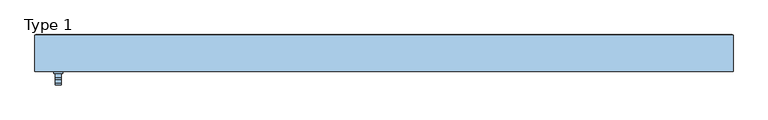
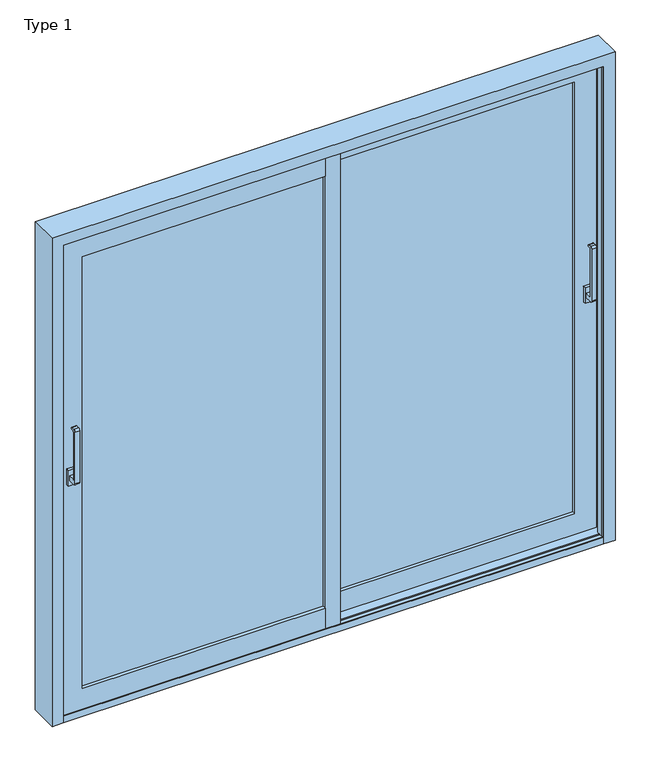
"""IFC4 building model written with IfcOpenShell, lengths in millimetres: window geometry, ETEM_E50_Double_Lift_Sliding_NI_FR : Type 1."""

from ifc_helpers import new_model, si_unit, point, frame, frame_2d, origin, place, context, project, spatial, polyline, circle_curve, trimmed, segment, composite_curve, outline, extrude, faceted_brep, source, transform, mapped, element, save


def type_1_6ca63ac7(model_context):
    return source(origin(), model_context, "Body", "SolidModel", [
        extrude(outline(composite_curve([segment(polyline([(37.4481944, 1090.0), (5.8745096, 1090.0)]), True, "CONTINUOUS"), segment(trimmed(circle_curve(frame_2d((5.8745096, 1098.4263152)), 8.4263152), [point((5.8745096, 1090.0))], [point((-2.5518056, 1098.4263152))], False, "CARTESIAN"), True, "CONTINUOUS"), segment(polyline([(-2.5518056, 1098.4263152), (-2.5518056, 1331.5736848)]), True, "CONTINUOUS"), segment(trimmed(circle_curve(frame_2d((5.8745096, 1331.5736848)), 8.4263152), [point((-2.5518056, 1331.5736848))], [point((5.8745096, 1340.0))], False, "CARTESIAN"), True, "CONTINUOUS"), segment(polyline([(5.8745096, 1340.0), (17.4481944, 1340.0)]), True, "CONTINUOUS"), segment(trimmed(circle_curve(frame_2d((17.4481944, 1335.0)), 5.0), [point((17.4481944, 1340.0))], [point((17.4481944, 1330.0))], False, "CARTESIAN"), True, "CONTINUOUS"), segment(polyline([(17.4481944, 1330.0), (10.9837283, 1330.0)]), True, "CONTINUOUS"), segment(trimmed(circle_curve(frame_2d((10.9837283, 1326.4644661)), 3.5355339), [point((10.9837283, 1330.0))], [point((7.4481944, 1326.4644661))], True, "CARTESIAN"), True, "CONTINUOUS"), segment(polyline([(7.4481944, 1326.4644661), (7.4481944, 1113.5355339)]), True, "CONTINUOUS"), segment(trimmed(circle_curve(frame_2d((10.9837283, 1113.5355339)), 3.5355339), [point((7.4481944, 1113.5355339))], [point((10.9837283, 1110.0))], True, "CARTESIAN"), True, "CONTINUOUS"), segment(polyline([(10.9837283, 1110.0), (37.4481944, 1110.0), (37.4481944, 1090.0)]), True, "CONTINUOUS")], self_intersect=False)), frame((1109.999965, 0.0, 0.0), z_axis=(1.0, 0.0, 0.0), x_axis=(0.0, 1.0, 0.0)), (0.0, 0.0, 1.0), 20.0),
        extrude(outline(polyline([(1134.999965, 37.4481944), (1104.999965, 37.4481944), (1104.999965, 50.4481944), (1134.999965, 50.4481944), (1134.999965, 37.4481944)])), frame((0.0, 0.0, 1065.0), z_axis=(0.0, 0.0, 1.0), x_axis=(1.0, 0.0, 0.0)), (0.0, 0.0, 1.0), 70.0),
        extrude(outline(composite_curve([segment(polyline([(-27.5518056, 1090.0), (-59.1254904, 1090.0)]), True, "CONTINUOUS"), segment(trimmed(circle_curve(frame_2d((-59.1254904, 1098.4263152)), 8.4263152), [point((-59.1254904, 1090.0))], [point((-67.5518056, 1098.4263152))], False, "CARTESIAN"), True, "CONTINUOUS"), segment(polyline([(-67.5518056, 1098.4263152), (-67.5518056, 1331.5736848)]), True, "CONTINUOUS"), segment(trimmed(circle_curve(frame_2d((-59.1254904, 1331.5736848)), 8.4263152), [point((-67.5518056, 1331.5736848))], [point((-59.1254904, 1340.0))], False, "CARTESIAN"), True, "CONTINUOUS"), segment(polyline([(-59.1254904, 1340.0), (-47.5518056, 1340.0)]), True, "CONTINUOUS"), segment(trimmed(circle_curve(frame_2d((-47.5518056, 1335.0)), 5.0), [point((-47.5518056, 1340.0))], [point((-47.5518056, 1330.0))], False, "CARTESIAN"), True, "CONTINUOUS"), segment(polyline([(-47.5518056, 1330.0), (-54.0162717, 1330.0)]), True, "CONTINUOUS"), segment(trimmed(circle_curve(frame_2d((-54.0162717, 1326.4644661)), 3.5355339), [point((-54.0162717, 1330.0))], [point((-57.5518056, 1326.4644661))], True, "CARTESIAN"), True, "CONTINUOUS"), segment(polyline([(-57.5518056, 1326.4644661), (-57.5518056, 1113.5355339)]), True, "CONTINUOUS"), segment(trimmed(circle_curve(frame_2d((-54.0162717, 1113.5355339)), 3.5355339), [point((-57.5518056, 1113.5355339))], [point((-54.0162717, 1110.0))], True, "CARTESIAN"), True, "CONTINUOUS"), segment(polyline([(-54.0162717, 1110.0), (-27.5518056, 1110.0), (-27.5518056, 1090.0)]), True, "CONTINUOUS")], self_intersect=False)), frame((-1130.0, 0.0, 0.0), z_axis=(1.0, 0.0, 0.0), x_axis=(0.0, 1.0, 0.0)), (0.0, 0.0, 1.0), 20.0),
        extrude(outline(polyline([(-1105.0, -27.5518056), (-1135.0, -27.5518056), (-1135.0, -14.5518056), (-1105.0, -14.5518056), (-1105.0, -27.5518056)])), frame((0.0, 0.0, 1065.0), z_axis=(0.0, 0.0, 1.0), x_axis=(1.0, 0.0, 0.0)), (0.0, 0.0, 1.0), 70.0),
        faceted_brep([(-1196.499965, 106.1, 0.0), (-1151.499965, 106.1, 0.0), (-1151.499965, 102.5, 0.0), (-1178.199965, 102.5, 0.0), (-1178.2, 79.9481944, 0.0), (-1159.5, 79.9481944, 0.0), (-1159.5, 91.4481944, 0.0), (-1151.5, 91.4481944, 0.0), (-1151.5, 59.4481944, 0.0), (-1159.5, 59.4481944, 0.0), (-1159.5, 70.9481944, 0.0), (-1178.2, 70.9481944, 0.0), (-1178.2, 14.9481944, 0.0), (-1159.5, 14.9481944, 0.0), (-1159.5, 26.4481944, 0.0), (-1151.5, 26.4481944, 0.0), (-1151.5, -5.5518056, 0.0), (-1159.5, -5.5518056, 0.0), (-1159.5, 5.9481944, 0.0), (-1178.2, 5.9481944, 0.0), (-1178.2, -16.5518056, 0.0), (-1151.5, -16.5518056, 0.0), (-1151.5, -20.1518056, 0.0), (-1200.0, -20.1518056, 0.0), (-1200.0, 104.6481944, 0.0), (-1196.499965, 104.6481944, 0.0), (-1196.499965, 106.1, 2196.499965), (1196.499965, 106.1, 2196.499965), (1196.499965, 106.1, 0.0), (1151.499965, 106.1, 0.0), (1151.499965, 106.1, 2151.499965), (-1151.499965, 106.1, 2151.499965), (-1151.499965, 102.5, 2151.499965), (-1196.499965, 104.6481944, 2196.499965), (1196.499965, 104.6481944, 0.0), (1200.0, 104.6481944, 0.0), (1200.0, -20.1518056, 0.0), (1151.5, -20.1518056, 0.0), (1151.5, -16.5518056, 0.0), (1178.2, -16.5518056, 0.0), (1178.2, 5.9481944, 0.0), (1159.5, 5.9481944, 0.0), (1159.5, -5.5518056, 0.0), (1151.5, -5.5518056, 0.0), (1151.5, 26.4481944, 0.0), (1159.5, 26.4481944, 0.0), (1159.5, 14.9481944, 0.0), (1178.2, 14.9481944, 0.0), (1178.2, 70.9481944, 0.0), (1159.5, 70.9481944, 0.0), (1159.5, 59.4481944, 0.0), (1151.5, 59.4481944, 0.0), (1151.5, 91.4481944, 0.0), (1159.5, 91.4481944, 0.0), (1159.5, 79.9481944, 0.0), (1178.2, 79.9481944, 0.0), (1178.199965, 102.5, 0.0), (1151.499965, 102.5, 0.0), (1151.499965, 102.5, 2151.499965), (1196.499965, 104.6481944, 2196.499965), (1178.199965, 102.5, 2178.199965), (-1178.199965, 102.5, 2178.199965), (1159.5, 91.4481944, 2159.5), (1159.5, 79.9481944, 2159.5), (1151.5, 59.4481944, 2151.5), (1151.5, 91.4481944, 2151.5), (1159.5, 70.9481944, 2159.5), (1159.5, 59.4481944, 2159.5), (1178.2, 14.9481944, 2178.2), (1178.2, 70.9481944, 2178.2), (1159.5, 26.4481944, 2159.5), (1159.5, 14.9481944, 2159.5), (1151.5, -5.5518056, 2151.5), (1151.5, 26.4481944, 2151.5), (1159.5, 5.9481944, 2159.5), (1159.5, -5.5518056, 2159.5), (1178.2, -16.5518056, 2178.2), (1178.2, 5.9481944, 2178.2), (1151.5, -20.1518056, 2151.5), (1151.5, -16.5518056, 2151.5), (-1159.5, 79.9481944, 2159.5), (-1159.5, 91.4481944, 2159.5), (-1151.5, 91.4481944, 2151.5), (-1151.5, 59.4481944, 2151.5), (-1159.5, 59.4481944, 2159.5), (-1159.5, 70.9481944, 2159.5), (-1178.2, 70.9481944, 2178.2), (-1178.2, 14.9481944, 2178.2), (-1159.5, 14.9481944, 2159.5), (-1159.5, 26.4481944, 2159.5), (-1151.5, 26.4481944, 2151.5), (-1151.5, -5.5518056, 2151.5), (-1159.5, -5.5518056, 2159.5), (-1159.5, 5.9481944, 2159.5), (-1178.2, 5.9481944, 2178.2), (-1178.2, -16.5518056, 2178.2), (-1151.5, -16.5518056, 2151.5), (-1151.5, -20.1518056, 2151.5), (1200.0, 104.6481944, 2200.0), (1200.0, -20.1518056, 2200.0), (-1200.0, -20.1518056, 2200.0), (-1200.0, 104.6481944, 2200.0), (1178.199965, 79.9481944, 2178.2), (-1178.199965, 79.9481944, 2178.2)], [[[0, 1, 2, 3, 4, 5, 6, 7, 8, 9, 10, 11, 12, 13, 14, 15, 16, 17, 18, 19, 20, 21, 22, 23, 24, 25]], [[1, 0, 26, 27, 28, 29, 30, 31]], [[2, 1, 31, 32]], [[0, 25, 33, 26]], [[28, 34, 35, 36, 37, 38, 39, 40, 41, 42, 43, 44, 45, 46, 47, 48, 49, 50, 51, 52, 53, 54, 55, 56, 57, 29]], [[29, 57, 58, 30]], [[34, 28, 27, 59]], [[31, 30, 58, 32]], [[27, 26, 33, 59]], [[3, 2, 32, 58, 57, 56, 60, 61]], [[54, 53, 62, 63]], [[52, 51, 64, 65]], [[50, 49, 66, 67]], [[48, 47, 68, 69]], [[46, 45, 70, 71]], [[44, 43, 72, 73]], [[42, 41, 74, 75]], [[40, 39, 76, 77]], [[38, 37, 78, 79]], [[6, 5, 80, 81]], [[8, 7, 82, 83]], [[10, 9, 84, 85]], [[12, 11, 86, 87]], [[14, 13, 88, 89]], [[16, 15, 90, 91]], [[18, 17, 92, 93]], [[20, 19, 94, 95]], [[22, 21, 96, 97]], [[63, 62, 81, 80]], [[65, 64, 83, 82]], [[67, 66, 85, 84]], [[69, 68, 87, 86]], [[71, 70, 89, 88]], [[73, 72, 91, 90]], [[75, 74, 93, 92]], [[77, 76, 95, 94]], [[79, 78, 97, 96]], [[36, 35, 98, 99]], [[24, 23, 100, 101]], [[56, 55, 102, 60]], [[4, 3, 61, 103]], [[99, 98, 101, 100]], [[61, 60, 102, 103]], [[5, 4, 103, 102, 55, 54, 63, 80]], [[7, 6, 81, 62, 53, 52, 65, 82]], [[9, 8, 83, 64, 51, 50, 67, 84]], [[11, 10, 85, 66, 49, 48, 69, 86]], [[13, 12, 87, 68, 47, 46, 71, 88]], [[15, 14, 89, 70, 45, 44, 73, 90]], [[17, 16, 91, 72, 43, 42, 75, 92]], [[19, 18, 93, 74, 41, 40, 77, 94]], [[21, 20, 95, 76, 39, 38, 79, 96]], [[23, 22, 97, 78, 37, 36, 99, 100]], [[98, 35, 34, 59, 33, 25, 24, 101]]]),
        faceted_brep([(-32.5, 35.4481944, 121.470192), (-32.5, -14.5518056, 121.470192), (-32.5, -14.5518056, 29.970192), (-32.5, -9.8518056, 29.970192), (-32.5, -9.8518056, 59.170192), (-32.5, 30.7481944, 59.170192), (-32.5, 30.7481944, 29.970192), (-32.5, 35.4481944, 29.970192), (-1068.999965, 35.4481944, 121.470192), (-1068.999965, -14.5518056, 121.470192), (-1068.999965, -14.5518056, 2069.0), (-32.5, -14.5518056, 2069.0), (-32.5, -14.5518056, 2160.5), (-1160.499965, -14.5518056, 2160.5), (-1160.499965, -14.5518056, 29.970192), (-1160.499965, -9.8518056, 29.970192), (-1160.499965, -9.8518056, 2160.5), (-32.5, -9.8518056, 2160.5), (-32.5, -9.8518056, 2131.3), (-1131.299965, -9.8518056, 2131.3), (-1131.299965, -9.8518056, 59.170192), (-1131.299965, 30.7481944, 59.170192), (-1131.299965, 30.7481944, 2131.3), (-32.5, 30.7481944, 2131.3), (-32.5, 30.7481944, 2160.5), (-1160.499965, 30.7481944, 2160.5), (-1160.499965, 30.7481944, 29.970192), (-1160.499965, 35.4481944, 29.970192), (-1160.499965, 35.4481944, 2160.5), (-32.5, 35.4481944, 2160.5), (-32.5, 35.4481944, 2069.0), (-1068.999965, 35.4481944, 2069.0)], [[[0, 1, 2, 3, 4, 5, 6, 7]], [[1, 0, 8, 9]], [[2, 1, 9, 10, 11, 12, 13, 14]], [[3, 2, 14, 15]], [[4, 3, 15, 16, 17, 18, 19, 20]], [[5, 4, 20, 21]], [[6, 5, 21, 22, 23, 24, 25, 26]], [[7, 6, 26, 27]], [[0, 7, 27, 28, 29, 30, 31, 8]], [[9, 8, 31, 10]], [[15, 14, 13, 16]], [[21, 20, 19, 22]], [[27, 26, 25, 28]], [[30, 29, 24, 23, 18, 17, 12, 11]], [[10, 31, 30, 11]], [[16, 13, 12, 17]], [[22, 19, 18, 23]], [[28, 25, 24, 29]]]),
        extrude(outline(polyline([(-1068.999965, 6.4247265), (-32.5, 6.4247265), (-32.5, 1.4246054), (-1068.999965, 1.4246054), (-1068.999965, 6.4247265)])), frame((0.0, 0.0, 121.470192), z_axis=(0.0, 0.0, 1.0), x_axis=(1.0, 0.0, 0.0)), (0.0, 0.0, 1.0), 1947.529808),
        extrude(outline(polyline([(32.5, 92.4480733), (1068.999965, 92.4480733), (1068.999965, 87.4480733), (32.5, 87.4480733), (32.5, 92.4480733)])), frame((0.0, 0.0, 121.470192), z_axis=(0.0, 0.0, 1.0), x_axis=(1.0, 0.0, 0.0)), (0.0, 0.0, 1.0), 1947.529808),
        faceted_brep([(32.5, 100.4481944, 121.470192), (32.5, 100.4481944, 29.970192), (32.5, 95.7481944, 29.970192), (32.5, 95.7481944, 59.170192), (32.5, 55.1481944, 59.170192), (32.5, 55.1481944, 29.970192), (32.5, 50.4481944, 29.970192), (32.5, 50.4481944, 121.470192), (32.5, 100.4481944, 2069.0), (32.5, 50.4481944, 2069.0), (32.5, 50.4481944, 2160.5), (32.5, 55.1481944, 2160.5), (32.5, 55.1481944, 2131.3), (32.5, 95.7481944, 2131.3), (32.5, 95.7481944, 2160.5), (32.5, 100.4481944, 2160.5), (1068.999965, 100.4481944, 121.470192), (1068.999965, 100.4481944, 2069.0), (1160.499965, 100.4481944, 2160.5), (1160.499965, 100.4481944, 29.970192), (1160.499965, 95.7481944, 29.970192), (1160.499965, 95.7481944, 2160.5), (1131.299965, 95.7481944, 2131.3), (1131.299965, 95.7481944, 59.170192), (1131.299965, 55.1481944, 59.170192), (1131.299965, 55.1481944, 2131.3), (1160.499965, 55.1481944, 2160.5), (1160.499965, 55.1481944, 29.970192), (1160.499965, 50.4481944, 29.970192), (1160.499965, 50.4481944, 2160.5), (1068.999965, 50.4481944, 2069.0), (1068.999965, 50.4481944, 121.470192)], [[[0, 1, 2, 3, 4, 5, 6, 7]], [[8, 9, 10, 11, 12, 13, 14, 15]], [[1, 0, 16, 17, 8, 15, 18, 19]], [[2, 1, 19, 20]], [[3, 2, 20, 21, 14, 13, 22, 23]], [[4, 3, 23, 24]], [[5, 4, 24, 25, 12, 11, 26, 27]], [[6, 5, 27, 28]], [[7, 6, 28, 29, 10, 9, 30, 31]], [[0, 7, 31, 16]], [[16, 31, 30, 17]], [[20, 19, 18, 21]], [[24, 23, 22, 25]], [[28, 27, 26, 29]], [[21, 18, 15, 14]], [[25, 22, 13, 12]], [[29, 26, 11, 10]], [[17, 30, 9, 8]]]),
        extrude(outline(polyline([(32.5, -14.5518056), (-32.5, -14.5518056), (-32.5, 35.4481944), (2.55, 35.4481944), (2.55, 42.9740972), (0.0, 42.9740972), (0.0, 44.8481944), (4.4, 44.8481944), (4.4, 40.1481944), (15.75, 40.1481944), (15.75, 46.4481944), (32.5, 46.4481944), (32.5, -14.5518056)])), frame((0.0, 0.0, 29.970192), z_axis=(0.0, 0.0, 1.0), x_axis=(1.0, 0.0, 0.0)), (0.0, 0.0, 1.0), 2130.529808),
        extrude(outline(polyline([(-1068.999965, 27.4247265), (-32.5, 27.4247265), (-32.5, 22.4246054), (-1068.999965, 22.4246054), (-1068.999965, 27.4247265)])), frame((0.0, 0.0, 121.470192), z_axis=(0.0, 0.0, 1.0), x_axis=(1.0, 0.0, 0.0)), (0.0, 0.0, 1.0), 1947.529808),
        extrude(outline(polyline([(32.5, 71.4481944), (1068.999965, 71.4481944), (1068.999965, 66.4481944), (32.5, 66.4481944), (32.5, 71.4481944)])), frame((0.0, 0.0, 121.470192), z_axis=(0.0, 0.0, 1.0), x_axis=(1.0, 0.0, 0.0)), (0.0, 0.0, 1.0), 1947.529808),
        extrude(outline(polyline([(-32.5, 100.5), (32.5, 100.5), (32.5, 50.5), (-2.55, 50.5), (-2.55, 42.9740972), (0.0, 42.9740972), (0.0, 41.1), (-4.4, 41.1), (-4.4, 45.8), (-15.75, 45.8), (-15.75, 39.5), (-32.5, 39.5), (-32.5, 100.5)])), frame((0.0, 0.0, 29.970192), z_axis=(0.0, 0.0, 1.0), x_axis=(1.0, 0.0, 0.0)), (0.0, 0.0, 1.0), 2130.529808),
        faceted_brep([(1178.199965, 101.8481944, 0.0), (-1178.199965, 101.8481944, 0.0), (-1178.199965, 101.8481944, 25.0), (1178.199965, 101.8481944, 25.0), (-1178.199965, 79.9481944, 25.0), (-1159.5, 79.9481944, 25.0), (-1159.5, 91.4481944, 25.0), (-1151.5, 91.4481944, 25.0), (-1151.5, 77.9481944, 25.0), (1151.5, 77.9481944, 25.0), (1151.5, 91.4481944, 25.0), (1159.5, 91.4481944, 25.0), (1159.5, 79.9481944, 25.0), (1178.199965, 79.9481944, 25.0), (-1151.5, 77.9481944, 21.1999997), (1151.5, 77.9481944, 21.1999997), (-1151.5, 72.9481944, 21.1999997), (1151.5, 72.9481944, 21.1999997), (-1151.5, 72.9481944, 25.0), (1151.5, 72.9481944, 25.0), (-1151.5, 59.4481944, 25.0), (-1159.5, 59.4481944, 25.0), (-1159.5, 70.9481944, 25.0), (-1178.2, 70.9481944, 25.0), (-1178.2, 14.9481944, 25.0), (-1159.5, 14.9481944, 25.0), (-1159.5, 26.4481944, 25.0), (-1151.5, 26.4481944, 25.0), (-1151.5, 12.9481944, 25.0), (1151.5, 12.9481944, 25.0), (1151.5, 26.4481944, 25.0), (1159.5, 26.4481944, 25.0), (1159.5, 14.9481944, 25.0), (1178.2, 14.9481944, 25.0), (1178.2, 70.9481944, 25.0), (1159.5, 70.9481944, 25.0), (1159.5, 59.4481944, 25.0), (1151.5, 59.4481944, 25.0), (-1151.5, 12.9481944, 21.1999997), (1151.5, 12.9481944, 21.1999997), (-1151.5, 7.9481944, 21.1999997), (1151.5, 7.9481944, 21.1999997), (-1151.5, 7.9481944, 25.0), (1151.5, 7.9481944, 25.0), (-1151.5, -5.5518056, 25.0), (-1159.5, -5.5518056, 25.0), (-1159.5, 5.9481944, 25.0), (-1178.2, 5.9481944, 25.0), (-1178.2, -16.3518056, 25.0), (-1151.5, -16.3518056, 25.0), (1151.5, -16.3518056, 25.0), (1178.2, -16.3518056, 25.0), (1178.2, 5.9481944, 25.0), (1159.5, 5.9481944, 25.0), (1159.5, -5.5518056, 25.0), (1151.5, -5.5518056, 25.0), (-1151.5, -16.3518056, 29.970192), (1151.5, -16.3518056, 29.970192), (-1151.5, -20.1518056, 29.970192), (1151.5, -20.1518056, 29.970192), (-1151.5, -20.1518056, 0.0), (1151.5, -20.1518056, 0.0), (1178.199965, 79.9481944, 0.0), (1159.5, 79.9481944, 0.0), (1159.5, 91.4481944, 0.0), (1151.5, 91.4481944, 0.0), (1151.5, 59.4481944, 0.0), (1159.5, 59.4481944, 0.0), (1159.5, 70.9481944, 0.0), (1178.2, 70.9481944, 0.0), (1178.2, 14.9481944, 0.0), (1159.5, 14.9481944, 0.0), (1159.5, 26.4481944, 0.0), (1151.5, 26.4481944, 0.0), (1151.5, -5.5518056, 0.0), (1159.5, -5.5518056, 0.0), (1159.5, 5.9481944, 0.0), (1178.2, 5.9481944, 0.0), (1178.2, -16.3518056, 0.0), (1151.5, -16.3518056, 0.0), (-1151.5, -16.3518056, 0.0), (-1178.2, -16.3518056, 0.0), (-1178.2, 5.9481944, 0.0), (-1159.5, 5.9481944, 0.0), (-1159.5, -5.5518056, 0.0), (-1151.5, -5.5518056, 0.0), (-1151.5, 26.4481944, 0.0), (-1159.5, 26.4481944, 0.0), (-1159.5, 14.9481944, 0.0), (-1178.2, 14.9481944, 0.0), (-1178.2, 70.9481944, 0.0), (-1159.5, 70.9481944, 0.0), (-1159.5, 59.4481944, 0.0), (-1151.5, 59.4481944, 0.0), (-1151.5, 91.4481944, 0.0), (-1159.5, 91.4481944, 0.0), (-1159.5, 79.9481944, 0.0), (-1178.199965, 79.9481944, 0.0)], [[[0, 1, 2, 3]], [[3, 2, 4, 5, 6, 7, 8, 9, 10, 11, 12, 13]], [[9, 8, 14, 15]], [[15, 14, 16, 17]], [[17, 16, 18, 19]], [[19, 18, 20, 21, 22, 23, 24, 25, 26, 27, 28, 29, 30, 31, 32, 33, 34, 35, 36, 37]], [[29, 28, 38, 39]], [[39, 38, 40, 41]], [[41, 40, 42, 43]], [[43, 42, 44, 45, 46, 47, 48, 49, 50, 51, 52, 53, 54, 55]], [[50, 49, 56, 57]], [[57, 56, 58, 59]], [[59, 58, 60, 61]], [[1, 0, 62, 63, 64, 65, 66, 67, 68, 69, 70, 71, 72, 73, 74, 75, 76, 77, 78, 79, 61, 60, 80, 81, 82, 83, 84, 85, 86, 87, 88, 89, 90, 91, 92, 93, 94, 95, 96, 97]], [[13, 62, 0, 3]], [[62, 13, 12, 63]], [[63, 12, 11, 64]], [[64, 11, 10, 65]], [[65, 10, 9, 15, 17, 19, 37, 66]], [[66, 37, 36, 67]], [[67, 36, 35, 68]], [[68, 35, 34, 69]], [[69, 34, 33, 70]], [[70, 33, 32, 71]], [[71, 32, 31, 72]], [[72, 31, 30, 73]], [[73, 30, 29, 39, 41, 43, 55, 74]], [[74, 55, 54, 75]], [[75, 54, 53, 76]], [[76, 53, 52, 77]], [[51, 78, 77, 52]], [[78, 51, 50, 79]], [[79, 50, 57, 59, 61]], [[49, 80, 60, 58, 56]], [[80, 49, 48, 81]], [[81, 48, 47, 82]], [[82, 47, 46, 83]], [[83, 46, 45, 84]], [[84, 45, 44, 85]], [[85, 44, 42, 40, 38, 28, 27, 86]], [[86, 27, 26, 87]], [[87, 26, 25, 88]], [[88, 25, 24, 89]], [[89, 24, 23, 90]], [[90, 23, 22, 91]], [[91, 22, 21, 92]], [[92, 21, 20, 93]], [[93, 20, 18, 16, 14, 8, 7, 94]], [[94, 7, 6, 95]], [[95, 6, 5, 96]], [[96, 5, 4, 97]], [[97, 4, 2, 1]]]),
    ])


if __name__ == "__main__":
    model = new_model("IFC4")
    model_context = context("Model", 3, world=origin())
    ifc_project = project(units=[si_unit("LENGTHUNIT", "METRE", prefix="MILLI")], contexts=[model_context])
    site = spatial("IfcSite", under=ifc_project)
    building = spatial("IfcBuilding", under=site)
    placement = place(None, origin())
    type_1_shape = type_1_6ca63ac7(model_context)
    element("IfcWindow", 1, ObjectType="ETEM_E50_Double_Lift_Sliding_NI_FR : Type 1", at=placement, inside=building, context=model_context, shape_type="MappedRepresentation", body=[
        mapped(type_1_shape, transform((0.0, 0.0, 0.0), x_axis=(1.0, 0.0, 0.0), y_axis=(0.0, 1.0, 0.0), z_axis=(0.0, 0.0, 1.0))),
    ])
    save(model, "model.ifc")
